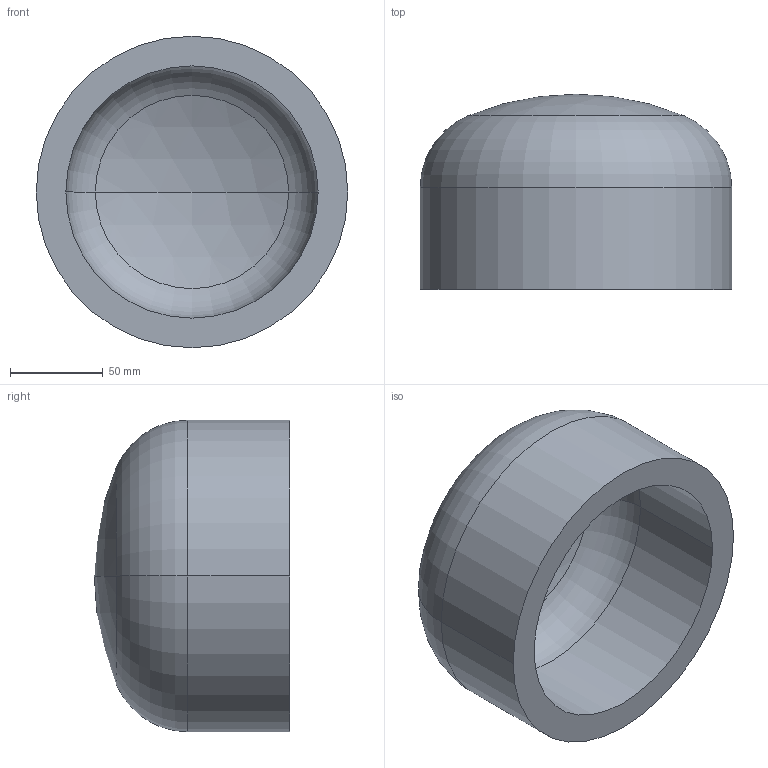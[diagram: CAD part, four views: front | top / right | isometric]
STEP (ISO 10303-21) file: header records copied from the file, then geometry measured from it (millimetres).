
FILE_DESCRIPTION (( 'STEP AP203' ), '1' );
FILE_NAME ('DIN 28013 Korbbogenform_-_Boden DIN 28013 - 168,3 x 55 - I - s=16.step', '2016-07-01T07:42:01', ( '' ), ( '' ), 'SwSTEP 2.0', 'SolidWorks 2013', '' );
FILE_SCHEMA (( 'CONFIG_CONTROL_DESIGN' ));
Length unit declared in the file: millimetre
Products named in the file (1): DIN 28013 Korbbogenform_-_Boden DIN 28013 - 168,3 x 55 - I - s=16
Bounding box: 168.3 x 105.48 x 168.3 mm (x, y, z)
Volume: 859393.7 mm3; surface area: 115615.8 mm2
Topology: 1 solids, 1 shells, 13 faces, 24 edges, 14 vertices
Faces by surface type: torus 4, cylinder 4, sphere 4, plane 1
Entity records: 407 total; most frequent: DIRECTION 72, CARTESIAN_POINT 52, ORIENTED_EDGE 48, AXIS2_PLACEMENT_3D 34, EDGE_CURVE 24, CIRCLE 20, EDGE_LOOP 14, VERTEX_POINT 14
